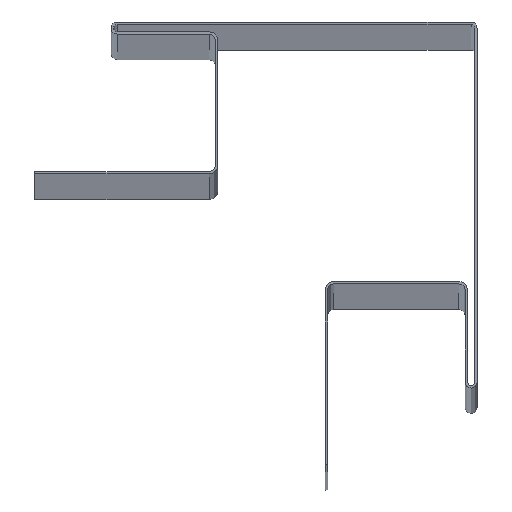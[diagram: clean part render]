
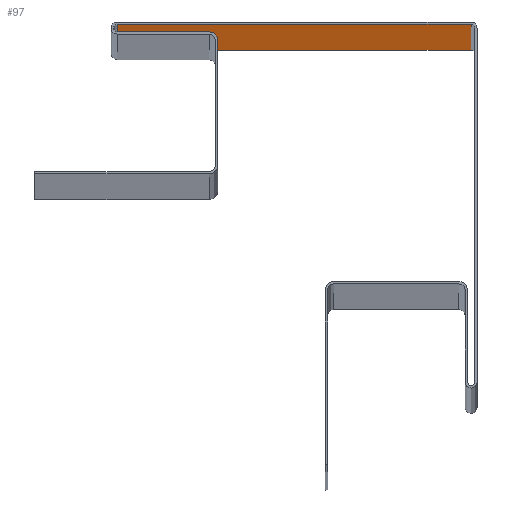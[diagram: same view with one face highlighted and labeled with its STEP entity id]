
A CAD part, top view. The second image highlights one B-rep face of the part: STEP entity #97.
In plain terms, the highlighted planar face has unit normal (0, -1, 0).
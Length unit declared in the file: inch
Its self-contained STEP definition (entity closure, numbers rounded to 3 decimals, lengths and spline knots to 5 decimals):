
#7 = ORIENTED_EDGE ( 'NONE', *, *, #944, .F. ) ;
#22 = VECTOR ( 'NONE', #1089, 39.37008 ) ;
#41 = ORIENTED_EDGE ( 'NONE', *, *, #831, .T. ) ;
#69 = VERTEX_POINT ( 'NONE', #991 ) ;
#80 = ORIENTED_EDGE ( 'NONE', *, *, #1126, .T. ) ;
#97 = ADVANCED_FACE ( 'NONE', ( #746 ), #1207, .T. ) ;
#159 = ORIENTED_EDGE ( 'NONE', *, *, #425, .F. ) ;
#188 = LINE ( 'NONE', #735, #281 ) ;
#203 = VECTOR ( 'NONE', #1167, 39.37008 ) ;
#281 = VECTOR ( 'NONE', #326, 39.37008 ) ;
#326 = DIRECTION ( 'NONE',  ( -1., 0., 0. ) ) ;
#335 = VERTEX_POINT ( 'NONE', #857 ) ;
#388 = EDGE_LOOP ( 'NONE', ( #7, #159, #41, #80 ) ) ;
#397 = LINE ( 'NONE', #448, #203 ) ;
#405 = DIRECTION ( 'NONE',  ( -1., 0., 0. ) ) ;
#423 = CARTESIAN_POINT ( 'NONE',  ( -0.05, -0.02, 120. ) ) ;
#425 = EDGE_CURVE ( 'NONE', #782, #69, #397, .T. ) ;
#436 = CARTESIAN_POINT ( 'NONE',  ( -2.95, -0.02, 0. ) ) ;
#448 = CARTESIAN_POINT ( 'NONE',  ( -0.05, -0.02, 120. ) ) ;
#456 = AXIS2_PLACEMENT_3D ( 'NONE', #904, #1300, #590 ) ;
#465 = CARTESIAN_POINT ( 'NONE',  ( -2.95, -0.02, 120. ) ) ;
#590 = DIRECTION ( 'NONE',  ( 1., 0., 0. ) ) ;
#598 = LINE ( 'NONE', #465, #22 ) ;
#693 = VERTEX_POINT ( 'NONE', #436 ) ;
#735 = CARTESIAN_POINT ( 'NONE',  ( -2.95, -0.02, 120. ) ) ;
#746 = FACE_OUTER_BOUND ( 'NONE', #388, .T. ) ;
#782 = VERTEX_POINT ( 'NONE', #423 ) ;
#831 = EDGE_CURVE ( 'NONE', #782, #335, #188, .T. ) ;
#857 = CARTESIAN_POINT ( 'NONE',  ( -2.95, -0.02, 120. ) ) ;
#896 = LINE ( 'NONE', #1122, #1251 ) ;
#904 = CARTESIAN_POINT ( 'NONE',  ( -2.95, -0.02, 120. ) ) ;
#944 = EDGE_CURVE ( 'NONE', #69, #693, #896, .T. ) ;
#991 = CARTESIAN_POINT ( 'NONE',  ( -0.05, -0.02, 0. ) ) ;
#1089 = DIRECTION ( 'NONE',  ( 0., 0., -1. ) ) ;
#1122 = CARTESIAN_POINT ( 'NONE',  ( -2.95, -0.02, 0. ) ) ;
#1126 = EDGE_CURVE ( 'NONE', #335, #693, #598, .T. ) ;
#1167 = DIRECTION ( 'NONE',  ( 0., 0., -1. ) ) ;
#1207 = PLANE ( 'NONE',  #456 ) ;
#1251 = VECTOR ( 'NONE', #405, 39.37008 ) ;
#1300 = DIRECTION ( 'NONE',  ( 0., -1., 0. ) ) ;
